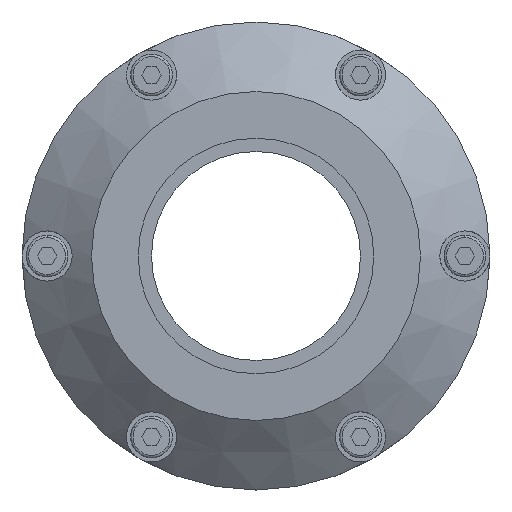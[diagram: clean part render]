
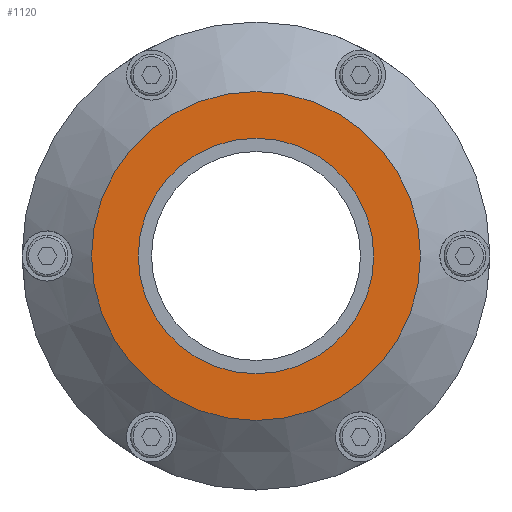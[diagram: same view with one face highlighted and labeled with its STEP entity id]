
A CAD part, left-side view. The second image highlights one B-rep face of the part: STEP entity #1120.
In plain terms, the highlighted planar face has unit normal (-1, 0, 0).
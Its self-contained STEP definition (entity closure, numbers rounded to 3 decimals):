
#445=FACE_BOUND('',#2151,.T.);
#446=FACE_BOUND('',#2152,.T.);
#779=PLANE('',#7802);
#1120=ADVANCED_FACE('',(#445,#446),#779,.T.);
#2151=EDGE_LOOP('',(#3700));
#2152=EDGE_LOOP('',(#3701));
#2760=CIRCLE('',#7800,28.179);
#2761=CIRCLE('',#7801,39.361);
#3700=ORIENTED_EDGE('',*,*,#6069,.T.);
#3701=ORIENTED_EDGE('',*,*,#6070,.T.);
#5304=VERTEX_POINT('',#11194);
#5305=VERTEX_POINT('',#11196);
#6069=EDGE_CURVE('',#5304,#5304,#2760,.T.);
#6070=EDGE_CURVE('',#5305,#5305,#2761,.T.);
#7800=AXIS2_PLACEMENT_3D('',#11193,#9124,#9125);
#7801=AXIS2_PLACEMENT_3D('',#11195,#9126,#9127);
#7802=AXIS2_PLACEMENT_3D('',#11197,#9128,#9129);
#9124=DIRECTION('',(1.,0.,0.));
#9125=DIRECTION('',(0.,0.866,-0.5));
#9126=DIRECTION('',(-1.,0.,0.));
#9127=DIRECTION('',(0.,-0.866,0.5));
#9128=DIRECTION('',(-1.,0.,0.));
#9129=DIRECTION('',(0.,-0.866,0.5));
#11193=CARTESIAN_POINT('',(-107.5,0.,0.));
#11194=CARTESIAN_POINT('',(-107.5,24.404,-14.089));
#11195=CARTESIAN_POINT('',(-107.5,0.,0.));
#11196=CARTESIAN_POINT('',(-107.5,-34.087,19.68));
#11197=CARTESIAN_POINT('',(-107.5,0.,0.));
